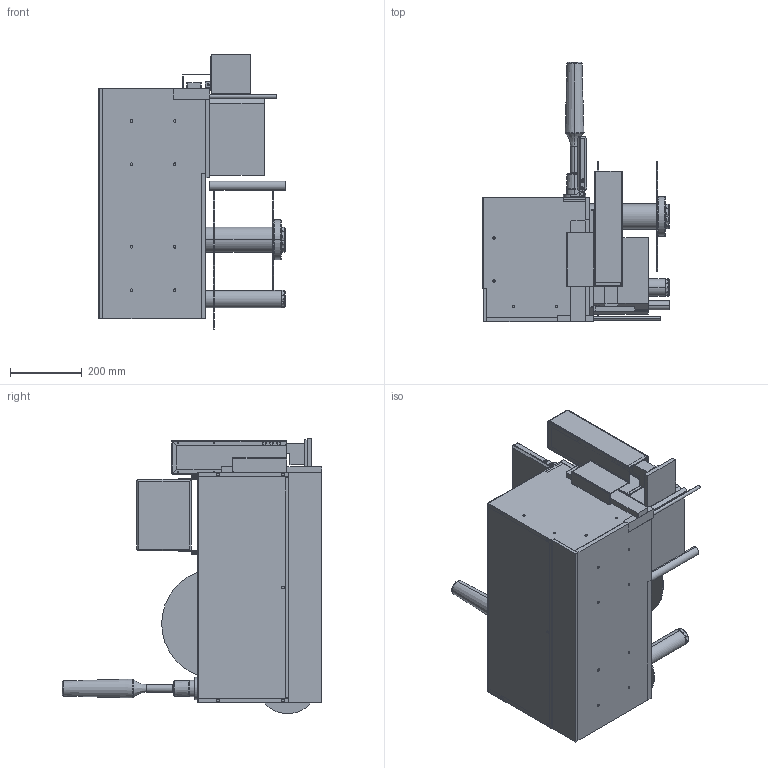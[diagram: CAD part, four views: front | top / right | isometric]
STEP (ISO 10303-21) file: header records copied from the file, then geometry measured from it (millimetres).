
FILE_DESCRIPTION (( 'STEP AP203' ), '1' );
FILE_NAME ('60A(150mm行程贴标臂)外发模型.STEP', '2019-02-11T03:14:16', ( '' ), ( '' ), 'SwSTEP 2.0', 'SolidWorks 2017', '' );
FILE_SCHEMA (( 'CONFIG_CONTROL_DESIGN' ));
Length unit declared in the file: millimetre
Products named in the file (1): 60A(150mm行程贴标臂)外发模型
Bounding box: 518.2 x 721.5 x 765.2 mm (x, y, z)
Volume: 31699733.3 mm3; surface area: 3626716.2 mm2
Topology: 51 solids, 51 shells, 1359 faces, 3451 edges, 2246 vertices
Faces by surface type: plane 621, cylinder 434, bspline 154, cone 150
Entity records: 48508 total; most frequent: CARTESIAN_POINT 15948, ORIENTED_EDGE 6882, DIRECTION 6428, EDGE_CURVE 3441, AXIS2_PLACEMENT_3D 2255, VERTEX_POINT 2246, LINE 1918, VECTOR 1918
